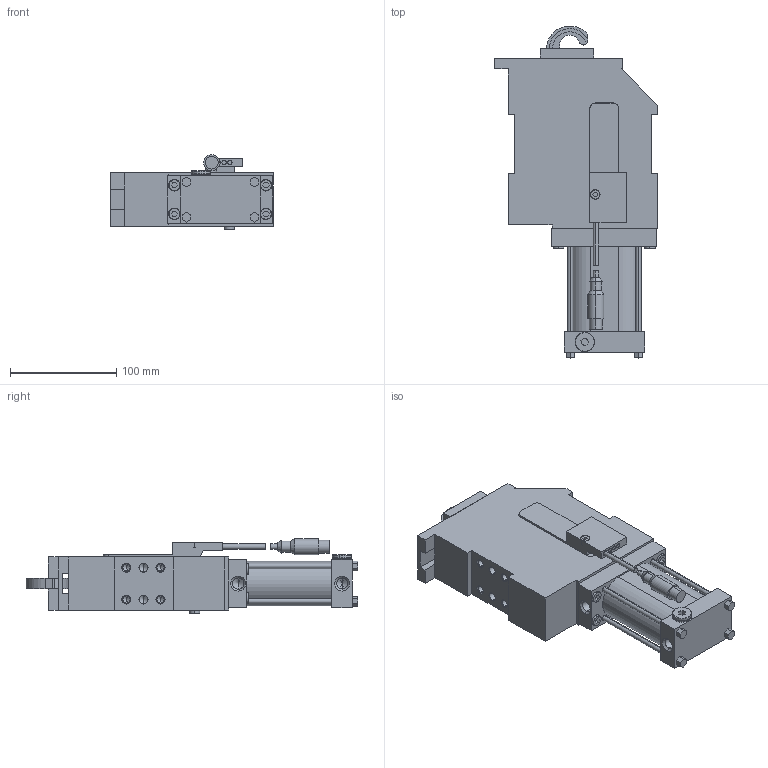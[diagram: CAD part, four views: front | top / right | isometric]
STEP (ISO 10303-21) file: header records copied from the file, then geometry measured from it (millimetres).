
FILE_DESCRIPTION (( 'STEP AP203' ), '1' );
FILE_NAME ('dpa50i_00000_(16_02_2017).STEP', '2017-02-16T08:42:25', ( '' ), ( '' ), 'SwSTEP 2.0', 'SolidWorks 2016', '' );
FILE_SCHEMA (( 'CONFIG_CONTROL_DESIGN' ));
Length unit declared in the file: millimetre
Products named in the file (9): gancio_dpa50_2; biella_gancio_dpa50; riparo_fc_dpa50; fc_induttivo_turck_55_dpa; rondella tappo 1_4 gas; tappo_1_4_gas_din908_2_028; Tassello_sp9,3_dpa50i_00000; dpa50i_00000_(16_02_2017); gruppo_montante_dpa50
Assembly tree (8 placements, depth 2):
  dpa50i_00000_(16_02_2017)
    gruppo_montante_dpa50
    gancio_dpa50_2
    biella_gancio_dpa50
    riparo_fc_dpa50
    fc_induttivo_turck_55_dpa
    rondella tappo 1_4 gas
    tappo_1_4_gas_din908_2_028
    Tassello_sp9,3_dpa50i_00000
Bounding box: 153 x 311.84 x 70.2 mm (x, y, z)
Volume: 1167088.5 mm3; surface area: 187042 mm2
Topology: 9 solids, 9 shells, 585 faces, 1425 edges, 895 vertices
Faces by surface type: plane 303, cylinder 186, cone 90, bspline 6
Entity records: 18124 total; most frequent: CARTESIAN_POINT 3216, DIRECTION 2997, ORIENTED_EDGE 2782, EDGE_CURVE 1391, AXIS2_PLACEMENT_3D 1028, VECTOR 941, LINE 941, VERTEX_POINT 895
